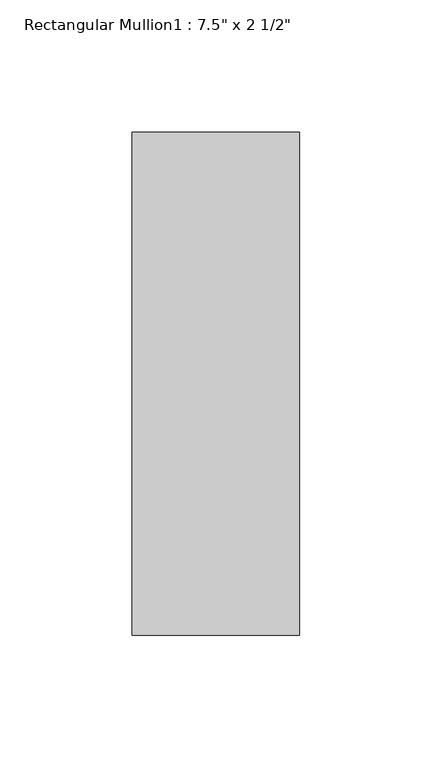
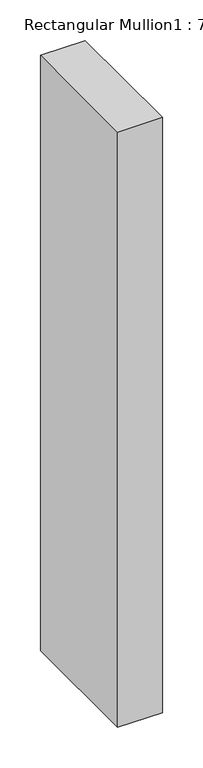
"""IFC4 building model written with IfcOpenShell, lengths in millimetres: member geometry."""

from ifc_helpers import new_model, si_unit, frame, origin, place, context, project, spatial, polyline, outline, extrude, source, transform, mapped, element, save


def member_9cd0507e(model_context):
    return source(origin(), model_context, "Body", "SweptSolid", [
        extrude(outline(polyline([(31.75, 165.1), (31.75, -25.4), (-31.75, -25.4), (-31.75, 165.1), (31.75, 165.1)])), frame((0.0, 0.0, -894.4137778), z_axis=(0.0, 0.0, 1.0), x_axis=(1.0, 0.0, 0.0)), (0.0, 0.0, 1.0), 894.4137778),
    ])


if __name__ == "__main__":
    model = new_model("IFC4")
    model_context = context("Model", 3, world=origin())
    ifc_project = project(units=[si_unit("LENGTHUNIT", "METRE", prefix="MILLI")], contexts=[model_context])
    site = spatial("IfcSite", under=ifc_project)
    building = spatial("IfcBuilding", under=site)
    placement = place(None, origin())
    member_shape = member_9cd0507e(model_context)
    element("IfcMember", 1, ObjectType="Rectangular Mullion1 : 7.5\" x 2 1/2\"", at=placement, inside=building, context=model_context, shape_type="MappedRepresentation", body=[
        mapped(member_shape, transform((0.0, 0.0, 0.0), x_axis=(1.0, 0.0, 0.0), y_axis=(0.0, 1.0, 0.0), z_axis=(0.0, 0.0, 1.0))),
    ])
    save(model, "model.ifc")
